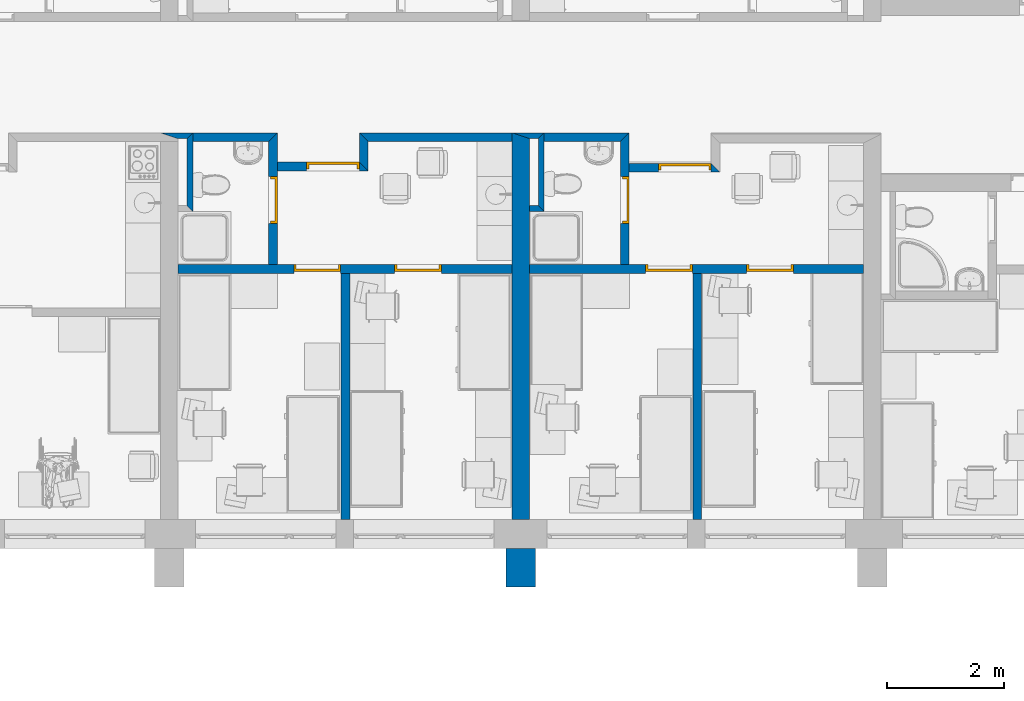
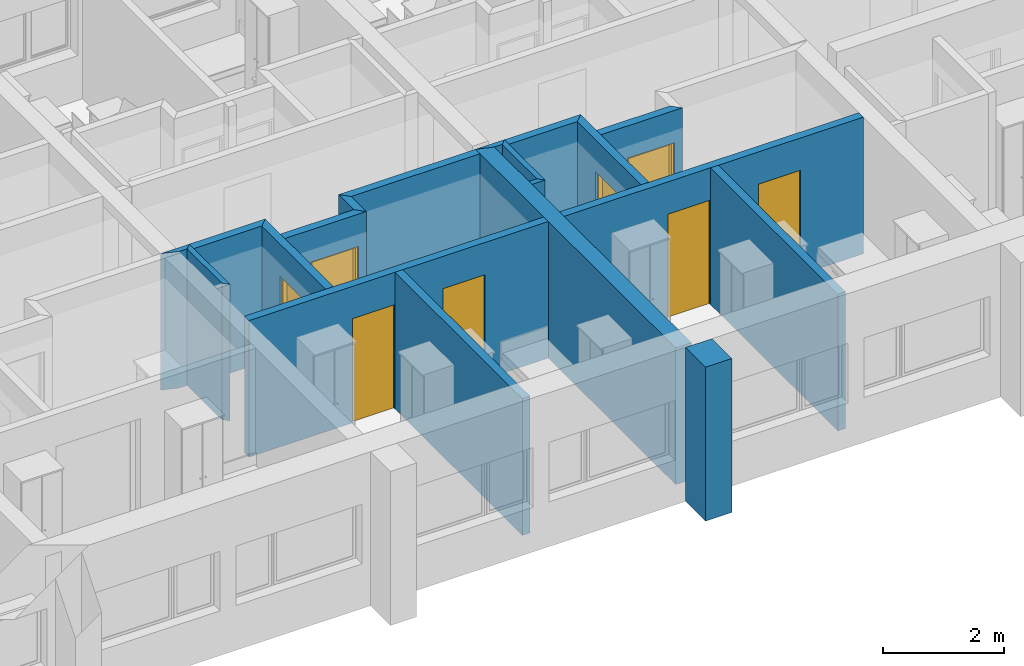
# One storey, part 15 of 172: 19 walls, 8 doors, 8 openings.
"""IFC2X3 building model written with IfcOpenShell, lengths in millimetres."""

import ifcopenshell
import ifcopenshell.guid

model = None  # the IFC model being written
_history = None  # IfcOwnerHistory: only IFC2X3 demands one
_inside = {}  # id of a spatial element -> (the spatial element, [elements in it])
_under = {}  # id of a project, library or spatial element -> (it, [spatial elements below it])
_declared = {}  # id of a project -> (the project, [libraries it declares])
_typed = {}  # id of a type object -> (the type object, [elements of that type])
_made_of = {}  # id of a material, layer set ... -> (it, [elements and type objects made of it])


def new_model(schema):
    """Start an empty IFC model of exactly this schema.

    Asked for "IFC4X3", IfcOpenShell would pick the latest addendum, in which some entities
    have other attributes; the version numbers below select the first issue.
    IFC2X3 requires an IfcOwnerHistory on every rooted entity: one is made here for all.
    """
    global model, _history
    if schema == "IFC4X3":
        model = ifcopenshell.file(schema_version=(4, 3, 0, 0))
    else:
        model = ifcopenshell.file(schema=schema)
    _inside.clear()
    _under.clear()
    _declared.clear()
    _typed.clear()
    _made_of.clear()
    _history = None
    if model.schema == "IFC2X3":
        org = make("IfcOrganization", Name="unknown")
        user = make(
            "IfcPersonAndOrganization",
            ThePerson=make("IfcPerson", FamilyName="unknown"),
            TheOrganization=org,
        )
        app = make(
            "IfcApplication",
            ApplicationDeveloper=org,
            Version="unknown",
            ApplicationFullName="unknown",
            ApplicationIdentifier="unknown",
        )
        _history = make(
            "IfcOwnerHistory",
            OwningUser=user,
            OwningApplication=app,
            ChangeAction="ADDED",
            CreationDate=0,
        )
    return model


def make(cls, **values):
    """One entity of the class cls with the attributes given. An attribute that is None is left unset."""
    return model.create_entity(
        cls, **{name: value for name, value in values.items() if value is not None}
    )


def entity(cls, *values):
    """Any entity or typed value of the class cls, its attributes in the order of the schema. None: left unset."""
    e = model.create_entity(cls)
    for i, value in enumerate(values):
        if value is not None:
            e[i] = value
    return e


def rooted(cls, **values):
    """An entity with a GlobalId (a new one), such as an element, a storey or a relation."""
    return make(cls, GlobalId=ifcopenshell.guid.new(), OwnerHistory=_history, **values)


def si_unit(unit_type, name, prefix=None):
    """IfcSIUnit, for example si_unit("LENGTHUNIT", "METRE", prefix="MILLI")."""
    return make("IfcSIUnit", UnitType=unit_type, Prefix=prefix, Name=name)


def converted_unit(unit_type, name, factor, base, dimensions=None, offset=None):
    """IfcConversionBasedUnit, such as the inch: factor (a typed value) times the base unit."""
    return make(
        "IfcConversionBasedUnit"
        if offset is None
        else "IfcConversionBasedUnitWithOffset",
        ConversionOffset=offset,
        Dimensions=None
        if dimensions is None
        else entity("IfcDimensionalExponents", *dimensions),
        UnitType=unit_type,
        Name=name,
        ConversionFactor=make(
            "IfcMeasureWithUnit", ValueComponent=factor, UnitComponent=base
        ),
    )


def money_unit(currency):
    """IfcMonetaryUnit."""
    return make("IfcMonetaryUnit", Currency=currency)


def assignment(units):
    """IfcUnitAssignment: the units of a project."""
    return None if units is None else make("IfcUnitAssignment", Units=units)


def point(xyz):
    """IfcCartesianPoint."""
    return None if xyz is None else make("IfcCartesianPoint", Coordinates=xyz)


def direction(xyz):
    """IfcDirection."""
    return None if xyz is None else make("IfcDirection", DirectionRatios=xyz)


def frame(location, z_axis=None, x_axis=None):
    """IfcAxis2Placement3D, a coordinate frame: its origin and axes. An axis left out is left unset."""
    return make(
        "IfcAxis2Placement3D",
        Location=point(location),
        Axis=direction(z_axis),
        RefDirection=direction(x_axis),
    )


def origin_with_axes():
    """The frame at (0, 0, 0) with the z axis (0, 0, 1) and the x axis (1, 0, 0) written out."""
    return frame((0.0, 0.0, 0.0), z_axis=(0.0, 0.0, 1.0), x_axis=(1.0, 0.0, 0.0))


def place(relative_to, where):
    """IfcLocalPlacement: puts the frame where relative to a parent placement (None: the world)."""
    return make(
        "IfcLocalPlacement", PlacementRelTo=relative_to, RelativePlacement=where
    )


def context(
    kind, dimensions, precision=None, world=None, true_north=None, identifier=None
):
    """IfcGeometricRepresentationContext, for example the 3D "Model" context."""
    return make(
        "IfcGeometricRepresentationContext",
        ContextIdentifier=identifier,
        ContextType=kind,
        CoordinateSpaceDimension=dimensions,
        Precision=precision,
        WorldCoordinateSystem=world,
        TrueNorth=true_north,
    )


def subcontext(parent, identifier, kind, view, scale=None):
    """IfcGeometricRepresentationSubContext, for example "Body" below "Model"."""
    return make(
        "IfcGeometricRepresentationSubContext",
        ContextIdentifier=identifier,
        ContextType=kind,
        ParentContext=parent,
        TargetScale=scale,
        TargetView=view,
    )


def project(units=None, contexts=None):
    """IfcProject with its units and contexts."""
    return rooted(
        "IfcProject",
        Name="project",
        RepresentationContexts=contexts,
        UnitsInContext=assignment(units),
    )


def spatial(cls, under=None, at=None, **own):
    """A site, building, storey or space (cls), placed at a placement, below another one or the project."""
    s = rooted(cls, ObjectPlacement=at, **own)
    if under is not None:
        _under.setdefault(under.id(), (under, []))[1].append(s)
    return s


def polyline(points):
    """IfcPolyline through the points."""
    return make("IfcPolyline", Points=[point(p) for p in points])


def outline(outer, holes=None, kind="AREA"):
    """IfcArbitraryClosedProfileDef: a profile drawn as a closed curve; with holes, ...WithVoids."""
    if holes is None:
        return make("IfcArbitraryClosedProfileDef", ProfileType=kind, OuterCurve=outer)
    return make(
        "IfcArbitraryProfileDefWithVoids",
        ProfileType=kind,
        OuterCurve=outer,
        InnerCurves=holes,
    )


def extrude(swept, where, along, depth):
    """IfcExtrudedAreaSolid: the profile swept, set in the frame where, extruded along a direction by depth."""
    return make(
        "IfcExtrudedAreaSolid",
        SweptArea=swept,
        Position=where,
        ExtrudedDirection=direction(along),
        Depth=depth,
    )


def faces_of(points, faces, orient=None, outer=None):
    """IfcFace entities. A face is a list of loops; a loop is a list of indices into points, from 0.

    orient and outer hold one flag for each loop. By default every Orientation is true, the
    first loop of a face is its IfcFaceOuterBound and the others are IfcFaceBound.
    """
    made = []
    for i, loops in enumerate(faces):
        bounds = []
        for j, loop in enumerate(loops):
            is_outer = j == 0 if outer is None else outer[i][j]
            bounds.append(
                make(
                    "IfcFaceOuterBound" if is_outer else "IfcFaceBound",
                    Bound=make("IfcPolyLoop", Polygon=[points[k] for k in loop]),
                    Orientation=True if orient is None else orient[i][j],
                )
            )
        made.append(make("IfcFace", Bounds=bounds))
    return made


def faceted_brep(points, faces, orient=None, outer=None, voids=None):
    """IfcFacetedBrep: a solid bounded by flat faces; with voids (closed shells), ...WithVoids."""
    shared = [point(p) for p in points]
    hull = make("IfcClosedShell", CfsFaces=faces_of(shared, faces, orient, outer))
    if voids is None:
        return make("IfcFacetedBrep", Outer=hull)
    return make(
        "IfcFacetedBrepWithVoids",
        Outer=hull,
        Voids=[
            make(cls, CfsFaces=faces_of(shared, fs, o, b)) for cls, fs, o, b in voids
        ],
    )


def shape(context_of_items, identifier, shape_type, items):
    """IfcShapeRepresentation: the items that make up one representation, for example the "Body"."""
    return make(
        "IfcShapeRepresentation",
        ContextOfItems=context_of_items,
        RepresentationIdentifier=identifier,
        RepresentationType=shape_type,
        Items=items,
    )


def source(mapping_origin, context_of_items, identifier, shape_type, items):
    """IfcRepresentationMap: a shape defined once, which mapped items show again and again."""
    return make(
        "IfcRepresentationMap",
        MappingOrigin=mapping_origin,
        MappedRepresentation=shape(context_of_items, identifier, shape_type, items),
    )


def transform(
    local_origin,
    x_axis=None,
    y_axis=None,
    z_axis=None,
    scale=None,
    scale2=None,
    scale3=None,
    uniform=True,
):
    """IfcCartesianTransformationOperator3D, or its non-uniform kind. x_axis, y_axis, z_axis: its Axis1, 2, 3."""
    if uniform:
        return make(
            "IfcCartesianTransformationOperator3D",
            Axis1=direction(x_axis),
            Axis2=direction(y_axis),
            LocalOrigin=point(local_origin),
            Scale=scale,
            Axis3=direction(z_axis),
        )
    return make(
        "IfcCartesianTransformationOperator3DnonUniform",
        Axis1=direction(x_axis),
        Axis2=direction(y_axis),
        LocalOrigin=point(local_origin),
        Scale=scale,
        Axis3=direction(z_axis),
        Scale2=scale2,
        Scale3=scale3,
    )


def mapped(mapping_source, mapping_target):
    """IfcMappedItem: shows the shape of a source again, moved by a transform."""
    return make(
        "IfcMappedItem", MappingSource=mapping_source, MappingTarget=mapping_target
    )


def material(Name=None, Category=None):
    """IfcMaterial."""
    return make("IfcMaterial", Name=Name, Category=Category)


def material_list(materials):
    """IfcMaterialList."""
    return make("IfcMaterialList", Materials=materials)


def layer(
    of_material, thickness, ventilated=None, Name=None, Category=None, Priority=None
):
    """IfcMaterialLayer: one layer of a wall or slab, of a material (None: an air gap)."""
    return make(
        "IfcMaterialLayer",
        Material=of_material,
        LayerThickness=thickness,
        IsVentilated=ventilated,
        Name=Name,
        Category=Category,
        Priority=Priority,
    )


def layer_set(layers, Name=None):
    """IfcMaterialLayerSet."""
    return make("IfcMaterialLayerSet", MaterialLayers=layers, LayerSetName=Name)


def layer_usage(for_layer_set, set_direction, sense, offset, extent=None):
    """IfcMaterialLayerSetUsage: how a layer set lies in its element."""
    return make(
        "IfcMaterialLayerSetUsage",
        ForLayerSet=for_layer_set,
        LayerSetDirection=set_direction,
        DirectionSense=sense,
        OffsetFromReferenceLine=offset,
        ReferenceExtent=extent,
    )


def made_of(thing, what):
    """Note that an element or type object is made of a material, layer set ...; save() writes the relation."""
    if what is not None:
        _made_of.setdefault(what.id(), (what, []))[1].append(thing)
    return thing


def type_object(cls, material=None, **own):
    """A type object (cls), such as IfcWallType, which elements share."""
    return made_of(rooted(cls, **own), material)


def element(
    cls,
    number,
    at=None,
    inside=None,
    cuts=None,
    type_object=None,
    material=None,
    context=None,
    identifier="Body",
    shape_type=None,
    held_by="IfcProductDefinitionShape",
    body=None,
    shapes=None,
    **own,
):
    """One element of the class cls, such as IfcWall. Its Tag is "e" and its number.

    at: its placement. inside: the storey or other place that contains it. cuts: it is an
    opening in that element (IfcRelVoidsElement). A single representation is given by context,
    identifier, shape_type and body (its items); several are given by shapes. held_by: the class
    of the entity that holds the representations. save() writes the other relations.
    """
    e = rooted(cls, Tag="e%d" % number, ObjectPlacement=at, **own)
    if body is not None:
        shapes = [shape(context, identifier, shape_type, body)]
    if shapes is not None:
        e.Representation = make(held_by, Representations=shapes)
    if inside is not None:
        _inside.setdefault(inside.id(), (inside, []))[1].append(e)
    if cuts is not None:
        rooted(
            "IfcRelVoidsElement", RelatingBuildingElement=cuts, RelatedOpeningElement=e
        )
    if type_object is not None:
        _typed.setdefault(type_object.id(), (type_object, []))[1].append(e)
    return made_of(e, material)


def fill(opening, filler):
    """IfcRelFillsElement: the door or window that sits in an opening."""
    return rooted(
        "IfcRelFillsElement",
        RelatingOpeningElement=opening,
        RelatedBuildingElement=filler,
    )


def aggregate(whole, parts):
    """IfcRelAggregates: a whole, such as a stair, and the parts it consists of."""
    return rooted("IfcRelAggregates", RelatingObject=whole, RelatedObjects=parts)


def save(model, path):
    """Write the relations noted so far, then the file.

    IfcRelAggregates (storeys below a building ...), IfcRelContainedInSpatialStructure (elements
    in a storey), IfcRelDefinesByType, IfcRelAssociatesMaterial and IfcRelDeclares: one each for
    every whole, place, type object, material and project.
    """
    for whole, parts in _under.values():
        aggregate(whole, parts)
    for where, things in _inside.values():
        rooted(
            "IfcRelContainedInSpatialStructure",
            RelatedElements=things,
            RelatingStructure=where,
        )
    for kind, things in _typed.values():
        rooted("IfcRelDefinesByType", RelatedObjects=things, RelatingType=kind)
    for what, things in _made_of.values():
        rooted("IfcRelAssociatesMaterial", RelatedObjects=things, RelatingMaterial=what)
    for by, libraries in _declared.values():
        rooted("IfcRelDeclares", RelatingContext=by, RelatedDefinitions=libraries)
    model.write(path)


model = new_model("IFC2X3")

# Units and contexts
model_context = context("Model", 3, precision=1e-05, world=origin_with_axes(), true_north=direction((0.0, 1.0)))
body_context = subcontext(model_context, "Body", "Model", "MODEL_VIEW")
ifc_project = project(units=[si_unit("LENGTHUNIT", "METRE", prefix="MILLI"), si_unit("AREAUNIT", "SQUARE_METRE"), si_unit("VOLUMEUNIT", "CUBIC_METRE"), converted_unit("PLANEANGLEUNIT", "DEGREE", entity("IfcPlaneAngleMeasure", 0.0174532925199), si_unit("PLANEANGLEUNIT", "RADIAN"), dimensions=[0, 0, 0, 0, 0, 0, 0]), si_unit("SOLIDANGLEUNIT", "STERADIAN"), money_unit("USD"), converted_unit("TIMEUNIT", "Year", entity("IfcTimeMeasure", 31556926.0), si_unit("TIMEUNIT", "SECOND"), dimensions=[0, 0, 0, 0, 0, 0, 0]), si_unit("MASSUNIT", "GRAM"), si_unit("THERMODYNAMICTEMPERATUREUNIT", "DEGREE_CELSIUS"), si_unit("LUMINOUSINTENSITYUNIT", "LUMEN")], contexts=[model_context])

# Site, building, storey
site_placement = place(None, origin_with_axes())
site = spatial("IfcSite", under=ifc_project, at=site_placement, Name="Site", CompositionType="ELEMENT")
building_placement = place(site_placement, origin_with_axes())
building = spatial("IfcBuilding", under=site, at=building_placement, Name="Building", CompositionType="ELEMENT")
storey_placement = place(building_placement, frame((0.0, 0.0, 3200.0), z_axis=(0.0, 0.0, 1.0), x_axis=(1.0, 0.0, 0.0)))
storey = spatial("IfcBuildingStorey", under=building, at=storey_placement, Name="3KORRUS", CompositionType="ELEMENT", Elevation=3200.0)

# Wall
ifc_material_1 = material(Name="Olemasolevad seinad tellis, uus viimistlus")
ifc_layer_1 = layer(ifc_material_1, 500.0, ventilated="UNKNOWN")
ifc_layer_set_1 = layer_set([ifc_layer_1], Name="Olemasolevad seinad tellis, uus viimistlus 500")
ifc_layer_usage_1 = layer_usage(ifc_layer_set_1, "AXIS2", "POSITIVE", -100.0)
wall_type_1 = type_object("IfcWallType", Name="Olemasolevad seinad tellis, uus viimistlus 500", PredefinedType="NOTDEFINED")
wall_1_placement = place(storey_placement, frame((6009.70329669, -20796.6419407, 0.0), z_axis=(0.0, 0.0, 1.0), x_axis=(0.0, 1.0, 0.0)))
element("IfcWallStandardCase", 1, at=wall_1_placement, inside=storey, type_object=wall_type_1, material=ifc_layer_usage_1, Name="VS1", ObjectType="VS1", context=body_context, shape_type="SweptSolid", body=[
    extrude(outline(polyline([(0.0, -100.0), (657.402041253, -100.0), (657.402041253, 400.0), (0.0, 400.0), (0.0, -100.0)])), origin_with_axes(), (0.0, 0.0, 1.0), 3100.0),
])

# Wall, openings, doors
ifc_material_2 = material(Name="UmbKipsplaat")
ifc_layer_2 = layer(ifc_material_2, 13.0, ventilated="UNKNOWN")
ifc_layer_3 = layer(ifc_material_2, 13.0, ventilated="UNKNOWN")
ifc_material_3 = material(Name="SOOJUSTUS MINERAALVILL")
ifc_layer_4 = layer(ifc_material_3, 98.0, ventilated="UNKNOWN")
ifc_layer_5 = layer(ifc_material_2, 13.0, ventilated="UNKNOWN")
ifc_layer_6 = layer(ifc_material_2, 13.0, ventilated="UNKNOWN")
ifc_layer_set_2 = layer_set([ifc_layer_2, ifc_layer_3, ifc_layer_4, ifc_layer_5, ifc_layer_6], Name="kipssein150")
ifc_layer_usage_2 = layer_usage(ifc_layer_set_2, "AXIS2", "POSITIVE", 0.0)
wall_type_2 = type_object("IfcWallType", Name="kipssein150 150", PredefinedType="NOTDEFINED")
wall_2_placement = place(storey_placement, frame((6009.70329669, -15439.2398994, 0.0), z_axis=(0.0, 0.0, 1.0), x_axis=(1.0, 0.0, 0.0)))
wall_2 = element("IfcWallStandardCase", 2, at=wall_2_placement, inside=storey, type_object=wall_type_2, material=ifc_layer_usage_2, Name="SS1", ObjectType="SS1", context=body_context, shape_type="SweptSolid", body=[
    extrude(outline(polyline([(0.0, 0.0), (5700.0, 0.0), (5700.0, 150.0), (0.0, 150.0), (0.0, 0.0)])), origin_with_axes(), (0.0, 0.0, 1.0), 2750.0),
])
opening_1_placement = place(wall_2_placement, frame((4106.28839536, 0.0, 0.0), z_axis=(0.0, 0.0, 1.0), x_axis=(1.0, 0.0, 0.0)))
opening_1 = element("IfcOpeningElement", 3, at=opening_1_placement, cuts=wall_2, Name="SU3-4", context=body_context, shape_type="SweptSolid", body=[
    extrude(outline(polyline([(-400.0, 0.0), (400.0, 0.0), (400.0, 2100.0), (-400.0, 2100.0), (-400.0, 0.0)])), frame((0.0, -150.0, 0.0), z_axis=(0.0, 1.0, 0.0), x_axis=(-1.0, 0.0, 0.0)), (0.0, 0.0, 1.0), 450.0),
])
opening_2_placement = place(wall_2_placement, frame((2381.28839536, 0.0, 0.0), z_axis=(0.0, 0.0, 1.0), x_axis=(1.0, 0.0, 0.0)))
opening_2 = element("IfcOpeningElement", 4, at=opening_2_placement, cuts=wall_2, Name="SU3-5", context=body_context, shape_type="SweptSolid", body=[
    extrude(outline(polyline([(-400.0, 0.0), (400.0, 0.0), (400.0, 2100.0), (-400.0, 2100.0), (-400.0, 0.0)])), frame((0.0, -150.0, 0.0), z_axis=(0.0, -1.0, 0.0), x_axis=(1.0, 0.0, 0.0)), (0.0, 0.0, -1.0), 450.0),
])
ifc_material_4 = material(Name="Background")
ifc_material_list = material_list([ifc_material_4])
door_style_1 = type_object("IfcDoorStyle", Name="Door 19", ConstructionType="NOTDEFINED", OperationType="SINGLE_SWING_RIGHT", ParameterTakesPrecedence=False, Sizeable=False)
shared_shape_1 = source(origin_with_axes(), body_context, "Body", "Brep", [
    faceted_brep([(-360.0, -75.0, 0.0), (-360.0, -75.0, 2060.0), (-360.0, -150.0, 2060.0), (-360.0, -150.0, 0.0), (-372.0, -75.0, 2060.0), (-372.0, -75.0, 0.0), (-372.0, -35.0, 2060.0), (-400.0, -35.0, 2060.0), (-400.0, -150.0, 2060.0), (-400.0, -150.0, 0.0), (-400.0, -35.0, 0.0), (-372.0, -35.0, 0.0)], [[[0, 1, 2, 3]], [[4, 1, 0, 5]], [[4, 6, 7, 8, 2, 1]], [[2, 8, 9, 3]], [[5, 0, 3, 9, 10, 11]], [[6, 4, 5, 11]], [[6, 11, 10, 7]], [[9, 8, 7, 10]]]),
    faceted_brep([(372.0, -75.0, 2060.0), (360.0, -75.0, 2060.0), (360.0, -150.0, 2060.0), (400.0, -150.0, 2060.0), (400.0, -35.0, 2060.0), (372.0, -35.0, 2060.0), (372.0, -75.0, 0.0), (360.0, -75.0, 0.0), (360.0, -150.0, 0.0), (400.0, -150.0, 0.0), (400.0, -35.0, 0.0), (372.0, -35.0, 0.0)], [[[0, 1, 2, 3, 4, 5]], [[1, 0, 6, 7]], [[1, 7, 8, 2]], [[2, 8, 9, 3]], [[3, 9, 10, 4]], [[11, 5, 4, 10]], [[0, 5, 11, 6]], [[6, 11, 10, 9, 8, 7]]]),
    faceted_brep([(-372.0, -35.0, 2072.0), (-372.0, -35.0, 2060.0), (-400.0, -35.0, 2060.0), (-400.0, -35.0, 2100.0), (400.0, -35.0, 2100.0), (400.0, -35.0, 2060.0), (372.0, -35.0, 2060.0), (372.0, -35.0, 2072.0), (-372.0, -75.0, 2072.0), (-372.0, -75.0, 2060.0), (-360.0, -75.0, 2060.0), (-360.0, -150.0, 2060.0), (-400.0, -150.0, 2060.0), (-400.0, -150.0, 2100.0), (400.0, -150.0, 2100.0), (400.0, -150.0, 2060.0), (372.0, -75.0, 2060.0), (360.0, -150.0, 2060.0), (360.0, -75.0, 2060.0), (372.0, -75.0, 2072.0)], [[[0, 1, 2, 3, 4, 5, 6, 7]], [[1, 0, 8, 9]], [[9, 10, 11, 12, 2, 1]], [[12, 13, 3, 2]], [[13, 14, 4, 3]], [[14, 15, 5, 4]], [[16, 6, 5, 15, 17, 18]], [[7, 6, 16, 19]], [[0, 7, 19, 8]], [[16, 18, 10, 9, 8, 19]], [[10, 18, 17, 11]], [[15, 14, 13, 12, 11, 17]]]),
    faceted_brep([(372.0, -35.0, 0.0), (372.0, -75.0, 0.0), (-372.0, -75.0, 0.0), (-372.0, -35.0, 0.0), (372.0, -35.0, 2072.0), (372.0, -75.0, 2072.0), (-372.0, -75.0, 2072.0), (-372.0, -35.0, 2072.0)], [[[0, 1, 2, 3]], [[4, 5, 1, 0]], [[1, 5, 6, 2]], [[3, 2, 6, 7]], [[0, 3, 7, 4]], [[7, 6, 5, 4]]]),
])
door_1_placement = place(opening_1_placement, frame((400.0, 0.0, 0.0), z_axis=(0.0, 0.0, 1.0), x_axis=(-1.0, 0.0, 0.0)))
door_1 = element("IfcDoor", 5, at=door_1_placement, inside=storey, type_object=door_style_1, material=ifc_material_list, Name="SU3-4", ObjectType="Toa uks", OverallHeight=2100.0, OverallWidth=800.0, context=body_context, shape_type="MappedRepresentation", body=[
    mapped(shared_shape_1, transform((400.0, 0.0, 0.0))),
])
fill(opening_1, door_1)
door_style_2 = type_object("IfcDoorStyle", Name="Door 19", ConstructionType="NOTDEFINED", OperationType="SINGLE_SWING_LEFT", ParameterTakesPrecedence=False, Sizeable=False)
shared_shape_2 = source(origin_with_axes(), body_context, "Body", "Brep", [
    faceted_brep([(360.0, -75.0, 0.0), (360.0, -150.0, 0.0), (360.0, -150.0, 2060.0), (360.0, -75.0, 2060.0), (372.0, -75.0, 0.0), (372.0, -35.0, 0.0), (400.0, -35.0, 0.0), (400.0, -150.0, 0.0), (400.0, -150.0, 2060.0), (372.0, -75.0, 2060.0), (400.0, -35.0, 2060.0), (372.0, -35.0, 2060.0)], [[[0, 1, 2, 3]], [[4, 5, 6, 7, 1, 0]], [[2, 1, 7, 8]], [[9, 3, 2, 8, 10, 11]], [[9, 4, 0, 3]], [[11, 5, 4, 9]], [[11, 10, 6, 5]], [[7, 6, 10, 8]]]),
    faceted_brep([(-372.0, -75.0, 2060.0), (-372.0, -35.0, 2060.0), (-400.0, -35.0, 2060.0), (-400.0, -150.0, 2060.0), (-360.0, -150.0, 2060.0), (-360.0, -75.0, 2060.0), (-372.0, -75.0, 0.0), (-372.0, -35.0, 0.0), (-400.0, -35.0, 0.0), (-400.0, -150.0, 0.0), (-360.0, -150.0, 0.0), (-360.0, -75.0, 0.0)], [[[0, 1, 2, 3, 4, 5]], [[0, 6, 7, 1]], [[7, 8, 2, 1]], [[3, 2, 8, 9]], [[4, 3, 9, 10]], [[5, 4, 10, 11]], [[5, 11, 6, 0]], [[6, 11, 10, 9, 8, 7]]]),
    faceted_brep([(372.0, -35.0, 2072.0), (-372.0, -35.0, 2072.0), (-372.0, -35.0, 2060.0), (-400.0, -35.0, 2060.0), (-400.0, -35.0, 2100.0), (400.0, -35.0, 2100.0), (400.0, -35.0, 2060.0), (372.0, -35.0, 2060.0), (372.0, -75.0, 2072.0), (-372.0, -75.0, 2072.0), (-372.0, -75.0, 2060.0), (-360.0, -75.0, 2060.0), (-360.0, -150.0, 2060.0), (-400.0, -150.0, 2060.0), (-400.0, -150.0, 2100.0), (400.0, -150.0, 2100.0), (400.0, -150.0, 2060.0), (372.0, -75.0, 2060.0), (360.0, -150.0, 2060.0), (360.0, -75.0, 2060.0)], [[[0, 1, 2, 3, 4, 5, 6, 7]], [[0, 8, 9, 1]], [[1, 9, 10, 2]], [[10, 11, 12, 13, 3, 2]], [[14, 4, 3, 13]], [[15, 5, 4, 14]], [[16, 6, 5, 15]], [[17, 7, 6, 16, 18, 19]], [[7, 17, 8, 0]], [[10, 9, 8, 17, 19, 11]], [[19, 18, 12, 11]], [[13, 12, 18, 16, 15, 14]]]),
    faceted_brep([(-372.0, -35.0, 0.0), (372.0, -35.0, 0.0), (372.0, -75.0, 0.0), (-372.0, -75.0, 0.0), (-372.0, -35.0, 2072.0), (372.0, -35.0, 2072.0), (372.0, -75.0, 2072.0), (-372.0, -75.0, 2072.0)], [[[0, 1, 2, 3]], [[0, 4, 5, 1]], [[1, 5, 6, 2]], [[3, 2, 6, 7]], [[4, 0, 3, 7]], [[5, 4, 7, 6]]]),
])
door_2_placement = place(opening_2_placement, frame((400.0, 0.0, 0.0), z_axis=(0.0, 0.0, 1.0), x_axis=(-1.0, 0.0, 0.0)))
door_2 = element("IfcDoor", 6, at=door_2_placement, inside=storey, type_object=door_style_2, material=ifc_material_list, Name="SU3-5", ObjectType="Toa uks", OverallHeight=2100.0, OverallWidth=800.0, context=body_context, shape_type="MappedRepresentation", body=[
    mapped(shared_shape_2, transform((400.0, 0.0, 0.0))),
])
fill(opening_2, door_2)

# Wall, opening, door
ifc_layer_usage_3 = layer_usage(ifc_layer_set_2, "AXIS2", "POSITIVE", -150.0)
wall_3_placement = place(storey_placement, frame((7709.89667774, -13563.4524083, 0.0), z_axis=(0.0, 0.0, 1.0), x_axis=(1.0, 0.0, 0.0)))
wall_3 = element("IfcWallStandardCase", 7, at=wall_3_placement, inside=storey, type_object=wall_type_2, material=ifc_layer_usage_3, Name="SS1", ObjectType="SS1", context=body_context, shape_type="SweptSolid", body=[
    extrude(outline(polyline([(0.0, -150.0), (1549.66067938, -150.0), (1399.66067938, 0.0), (0.0, 0.0), (0.0, -150.0)])), origin_with_axes(), (0.0, 0.0, 1.0), 2750.0),
])
opening_3_placement = place(wall_3_placement, frame((949.660679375, 0.0, 0.0), z_axis=(0.0, 0.0, 1.0), x_axis=(1.0, 0.0, 0.0)))
opening_3 = element("IfcOpeningElement", 8, at=opening_3_placement, cuts=wall_3, Name="SU2-5", context=body_context, shape_type="SweptSolid", body=[
    extrude(outline(polyline([(-450.0, -2100.0), (450.0, -2100.0), (450.0, 0.0), (-450.0, 0.0), (-450.0, -2100.0)])), frame((0.0, -150.0, 0.0), z_axis=(0.0, 1.0, 0.0), x_axis=(1.0, 0.0, 0.0)), (0.0, 0.0, 1.0), 450.0),
])
door_style_3 = type_object("IfcDoorStyle", Name="Door 19", ConstructionType="NOTDEFINED", OperationType="SINGLE_SWING_RIGHT", ParameterTakesPrecedence=False, Sizeable=False)
shared_shape_3 = source(origin_with_axes(), body_context, "Body", "Brep", [
    faceted_brep([(-410.0, -40.0, 0.0), (-410.0, -40.0, 2060.0), (-410.0, -115.0, 2060.0), (-410.0, -115.0, 0.0), (-422.0, -40.0, 2060.0), (-422.0, -40.0, 0.0), (-422.0, 0.0, 2060.0), (-450.0, 0.0, 2060.0), (-450.0, -115.0, 2060.0), (-450.0, -115.0, 0.0), (-450.0, 0.0, 0.0), (-422.0, 0.0, 0.0)], [[[0, 1, 2, 3]], [[4, 1, 0, 5]], [[4, 6, 7, 8, 2, 1]], [[2, 8, 9, 3]], [[5, 0, 3, 9, 10, 11]], [[6, 4, 5, 11]], [[6, 11, 10, 7]], [[9, 8, 7, 10]]]),
    faceted_brep([(422.0, -40.0, 2060.0), (410.0, -40.0, 2060.0), (410.0, -115.0, 2060.0), (450.0, -115.0, 2060.0), (450.0, 0.0, 2060.0), (422.0, 0.0, 2060.0), (422.0, -40.0, 0.0), (410.0, -40.0, 0.0), (410.0, -115.0, 0.0), (450.0, -115.0, 0.0), (450.0, 0.0, 0.0), (422.0, 0.0, 0.0)], [[[0, 1, 2, 3, 4, 5]], [[1, 0, 6, 7]], [[1, 7, 8, 2]], [[2, 8, 9, 3]], [[3, 9, 10, 4]], [[11, 5, 4, 10]], [[0, 5, 11, 6]], [[6, 11, 10, 9, 8, 7]]]),
    faceted_brep([(-422.0, 0.0, 2072.0), (-422.0, 0.0, 2060.0), (-450.0, 0.0, 2060.0), (-450.0, 0.0, 2100.0), (450.0, 0.0, 2100.0), (450.0, 0.0, 2060.0), (422.0, 0.0, 2060.0), (422.0, 0.0, 2072.0), (-422.0, -40.0, 2072.0), (-422.0, -40.0, 2060.0), (-410.0, -40.0, 2060.0), (-410.0, -115.0, 2060.0), (-450.0, -115.0, 2060.0), (-450.0, -115.0, 2100.0), (450.0, -115.0, 2100.0), (450.0, -115.0, 2060.0), (422.0, -40.0, 2060.0), (410.0, -115.0, 2060.0), (410.0, -40.0, 2060.0), (422.0, -40.0, 2072.0)], [[[0, 1, 2, 3, 4, 5, 6, 7]], [[1, 0, 8, 9]], [[9, 10, 11, 12, 2, 1]], [[12, 13, 3, 2]], [[13, 14, 4, 3]], [[14, 15, 5, 4]], [[16, 6, 5, 15, 17, 18]], [[7, 6, 16, 19]], [[0, 7, 19, 8]], [[16, 18, 10, 9, 8, 19]], [[10, 18, 17, 11]], [[15, 14, 13, 12, 11, 17]]]),
    faceted_brep([(422.0, 0.0, 0.0), (422.0, -40.0, 0.0), (-422.0, -40.0, 0.0), (-422.0, 0.0, 0.0), (422.0, 0.0, 2072.0), (422.0, -40.0, 2072.0), (-422.0, -40.0, 2072.0), (-422.0, 0.0, 2072.0)], [[[0, 1, 2, 3]], [[4, 5, 1, 0]], [[1, 5, 6, 2]], [[3, 2, 6, 7]], [[0, 3, 7, 4]], [[7, 6, 5, 4]]]),
])
door_3_placement = place(opening_3_placement, frame((-450.0, 0.0, 0.0), z_axis=(0.0, 0.0, 1.0), x_axis=(1.0, 0.0, 0.0)))
door_3 = element("IfcDoor", 9, at=door_3_placement, inside=storey, type_object=door_style_3, material=ifc_material_list, Name="SU2-5", ObjectType="Korteri välisuks", OverallHeight=2100.0, OverallWidth=900.0, context=body_context, shape_type="MappedRepresentation", body=[
    mapped(shared_shape_3, transform((450.0, 0.0, 0.0))),
])
fill(opening_3, door_3)

ifc_layer_usage_4 = layer_usage(ifc_layer_set_2, "AXIS2", "POSITIVE", 0.0)
wall_4_placement = place(storey_placement, frame((7709.89667774, -15439.2398994, 0.0), z_axis=(0.0, 0.0, 1.0), x_axis=(0.0, 1.0, 0.0)))
wall_4 = element("IfcWallStandardCase", 10, at=wall_4_placement, inside=storey, type_object=wall_type_2, material=ifc_layer_usage_4, Name="SS1", ObjectType="SS1", context=body_context, shape_type="SweptSolid", body=[
    extrude(outline(polyline([(150.0, 0.0), (2399.8693268, 0.0), (2249.8693268, 150.0), (150.0, 150.0), (150.0, 0.0)])), origin_with_axes(), (0.0, 0.0, 1.0), 2750.0),
])
opening_4_placement = place(wall_4_placement, frame((1249.78749843, 0.0, 0.0), z_axis=(0.0, 0.0, 1.0), x_axis=(1.0, 0.0, 0.0)))
opening_4 = element("IfcOpeningElement", 11, at=opening_4_placement, cuts=wall_4, Name="SU3-3", context=body_context, shape_type="SweptSolid", body=[
    extrude(outline(polyline([(-400.0, -2100.0), (400.0, -2100.0), (400.0, 0.0), (-400.0, 0.0), (-400.0, -2100.0)])), frame((0.0, 150.0, 0.0), z_axis=(0.0, 1.0, 0.0), x_axis=(1.0, 0.0, 0.0)), (0.0, 0.0, -1.0), 450.0),
])
door_style_4 = type_object("IfcDoorStyle", Name="Door 19", ConstructionType="NOTDEFINED", OperationType="SINGLE_SWING_LEFT", ParameterTakesPrecedence=False, Sizeable=False)
shared_shape_4 = source(origin_with_axes(), body_context, "Body", "Brep", [
    faceted_brep([(360.0, -40.0, 0.0), (360.0, -115.0, 0.0), (360.0, -115.0, 2060.0), (360.0, -40.0, 2060.0), (372.0, -40.0, 0.0), (372.0, 0.0, 0.0), (400.0, 0.0, 0.0), (400.0, -115.0, 0.0), (400.0, -115.0, 2060.0), (372.0, -40.0, 2060.0), (400.0, 0.0, 2060.0), (372.0, 0.0, 2060.0)], [[[0, 1, 2, 3]], [[4, 5, 6, 7, 1, 0]], [[2, 1, 7, 8]], [[9, 3, 2, 8, 10, 11]], [[9, 4, 0, 3]], [[11, 5, 4, 9]], [[11, 10, 6, 5]], [[7, 6, 10, 8]]]),
    faceted_brep([(-372.0, -40.0, 2060.0), (-372.0, 0.0, 2060.0), (-400.0, 0.0, 2060.0), (-400.0, -115.0, 2060.0), (-360.0, -115.0, 2060.0), (-360.0, -40.0, 2060.0), (-372.0, -40.0, 0.0), (-372.0, 0.0, 0.0), (-400.0, 0.0, 0.0), (-400.0, -115.0, 0.0), (-360.0, -115.0, 0.0), (-360.0, -40.0, 0.0)], [[[0, 1, 2, 3, 4, 5]], [[0, 6, 7, 1]], [[7, 8, 2, 1]], [[3, 2, 8, 9]], [[4, 3, 9, 10]], [[5, 4, 10, 11]], [[5, 11, 6, 0]], [[6, 11, 10, 9, 8, 7]]]),
    faceted_brep([(372.0, 0.0, 2072.0), (-372.0, 0.0, 2072.0), (-372.0, 0.0, 2060.0), (-400.0, 0.0, 2060.0), (-400.0, 0.0, 2100.0), (400.0, 0.0, 2100.0), (400.0, 0.0, 2060.0), (372.0, 0.0, 2060.0), (372.0, -40.0, 2072.0), (-372.0, -40.0, 2072.0), (-372.0, -40.0, 2060.0), (-360.0, -40.0, 2060.0), (-360.0, -115.0, 2060.0), (-400.0, -115.0, 2060.0), (-400.0, -115.0, 2100.0), (400.0, -115.0, 2100.0), (400.0, -115.0, 2060.0), (372.0, -40.0, 2060.0), (360.0, -115.0, 2060.0), (360.0, -40.0, 2060.0)], [[[0, 1, 2, 3, 4, 5, 6, 7]], [[0, 8, 9, 1]], [[1, 9, 10, 2]], [[10, 11, 12, 13, 3, 2]], [[14, 4, 3, 13]], [[15, 5, 4, 14]], [[16, 6, 5, 15]], [[17, 7, 6, 16, 18, 19]], [[7, 17, 8, 0]], [[10, 9, 8, 17, 19, 11]], [[19, 18, 12, 11]], [[13, 12, 18, 16, 15, 14]]]),
    faceted_brep([(-372.0, 0.0, 0.0), (372.0, 0.0, 0.0), (372.0, -40.0, 0.0), (-372.0, -40.0, 0.0), (-372.0, 0.0, 2072.0), (372.0, 0.0, 2072.0), (372.0, -40.0, 2072.0), (-372.0, -40.0, 2072.0)], [[[0, 1, 2, 3]], [[0, 4, 5, 1]], [[1, 5, 6, 2]], [[3, 2, 6, 7]], [[4, 0, 3, 7]], [[5, 4, 7, 6]]]),
])
door_4_placement = place(opening_4_placement, frame((400.0, 0.0, 0.0), z_axis=(0.0, 0.0, 1.0), x_axis=(-1.0, 0.0, 0.0)))
door_4 = element("IfcDoor", 12, at=door_4_placement, inside=storey, type_object=door_style_4, material=ifc_material_list, Name="SU3-3", ObjectType="WC-uks", OverallHeight=2100.0, OverallWidth=800.0, context=body_context, shape_type="MappedRepresentation", body=[
    mapped(shared_shape_4, transform((400.0, 0.0, 0.0))),
])
fill(opening_4, door_4)

# Walls
ifc_layer_usage_5 = layer_usage(ifc_layer_set_2, "AXIS2", "POSITIVE", 0.0)
wall_5_placement = place(storey_placement, frame((7709.89667774, -13039.3705726, 0.0), z_axis=(0.0, 0.0, 1.0), x_axis=(-1.0, 0.0, 0.0)))
element("IfcWallStandardCase", 13, at=wall_5_placement, inside=storey, type_object=wall_type_2, material=ifc_layer_usage_5, Name="SS1", ObjectType="SS1", context=body_context, shape_type="SweptSolid", body=[
    extrude(outline(polyline([(0.0, 0.0), (1449.9049857, 0.0), (1449.9049857, 150.0), (150.0, 150.0), (0.0, 0.0)])), origin_with_axes(), (0.0, 0.0, 1.0), 2750.0),
])
ifc_layer_usage_6 = layer_usage(ifc_layer_set_2, "AXIS2", "POSITIVE", -150.0)
wall_6_placement = place(storey_placement, frame((8795.99169205, -19639.2398994, 0.0), z_axis=(0.0, 0.0, 1.0), x_axis=(0.0, 1.0, 0.0)))
element("IfcWallStandardCase", 14, at=wall_6_placement, inside=storey, type_object=wall_type_2, material=ifc_layer_usage_6, Name="SS1", ObjectType="SS1", context=body_context, shape_type="SweptSolid", body=[
    extrude(outline(polyline([(0.0, -150.0), (4200.0, -150.0), (4200.0, 0.0), (0.0, 0.0), (0.0, -150.0)])), origin_with_axes(), (0.0, 0.0, 1.0), 2750.0),
])
ifc_layer_usage_7 = layer_usage(ifc_layer_set_2, "AXIS2", "POSITIVE", -150.0)
wall_7_placement = place(storey_placement, frame((259.414901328, -13039.5012458, 0.0), z_axis=(0.0, 0.0, 1.0), x_axis=(1.0, 0.0, 0.0)))
element("IfcWallStandardCase", 15, at=wall_7_placement, inside=storey, type_object=wall_type_2, material=ifc_layer_usage_7, Name="SS1", ObjectType="SS1", context=body_context, shape_type="SweptSolid", body=[
    extrude(outline(polyline([(0.0, -150.0), (1294.19338105, -150.0), (1444.19338105, 0.0), (0.0, 0.0), (0.0, -150.0)])), origin_with_axes(), (0.0, 0.0, 1.0), 2750.0),
])

# Wall, opening, door
ifc_layer_usage_8 = layer_usage(ifc_layer_set_2, "AXIS2", "POSITIVE", -150.0)
wall_8_placement = place(storey_placement, frame((1703.60828238, -13539.5830815, 0.0), z_axis=(0.0, 0.0, 1.0), x_axis=(1.0, 0.0, 0.0)))
wall_8 = element("IfcWallStandardCase", 16, at=wall_8_placement, inside=storey, type_object=wall_type_2, material=ifc_layer_usage_8, Name="SS1", ObjectType="SS1", context=body_context, shape_type="SweptSolid", body=[
    extrude(outline(polyline([(0.0, -150.0), (1549.66067938, -150.0), (1399.66067938, 0.0), (0.0, 0.0), (0.0, -150.0)])), origin_with_axes(), (0.0, 0.0, 1.0), 2750.0),
])
opening_5_placement = place(wall_8_placement, frame((949.660679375, 0.0, 0.0), z_axis=(0.0, 0.0, 1.0), x_axis=(1.0, 0.0, 0.0)))
opening_5 = element("IfcOpeningElement", 17, at=opening_5_placement, cuts=wall_8, Name="SU2-5", context=body_context, shape_type="SweptSolid", body=[
    extrude(outline(polyline([(-450.0, -2100.0), (450.0, -2100.0), (450.0, 0.0), (-450.0, 0.0), (-450.0, -2100.0)])), frame((0.0, -150.0, 0.0), z_axis=(0.0, 1.0, 0.0), x_axis=(1.0, 0.0, 0.0)), (0.0, 0.0, 1.0), 450.0),
])
door_5_placement = place(opening_5_placement, frame((-450.0, 0.0, 0.0), z_axis=(0.0, 0.0, 1.0), x_axis=(1.0, 0.0, 0.0)))
door_5 = element("IfcDoor", 18, at=door_5_placement, inside=storey, type_object=door_style_3, material=ifc_material_list, Name="SU2-5", ObjectType="Korteri välisuks", OverallHeight=2100.0, OverallWidth=900.0, context=body_context, shape_type="MappedRepresentation", body=[
    mapped(shared_shape_3, transform((450.0, 0.0, 0.0))),
])
fill(opening_5, door_5)

# Wall
ifc_layer_usage_9 = layer_usage(ifc_layer_set_2, "AXIS2", "POSITIVE", -150.0)
wall_9_placement = place(storey_placement, frame((3253.26896176, -13039.3705726, 0.0), z_axis=(0.0, 0.0, 1.0), x_axis=(0.0, -1.0, 0.0)))
element("IfcWallStandardCase", 19, at=wall_9_placement, inside=storey, type_object=wall_type_2, material=ifc_layer_usage_9, Name="SS1", ObjectType="SS1", context=body_context, shape_type="SweptSolid", body=[
    extrude(outline(polyline([(0.0, -150.0), (500.2125089, -150.0), (650.2125089, 0.0), (150.0, 0.0), (0.0, -150.0)])), origin_with_axes(), (0.0, 0.0, 1.0), 2750.0),
])

# Wall, opening, door
ifc_layer_usage_10 = layer_usage(ifc_layer_set_2, "AXIS2", "POSITIVE", 0.0)
wall_10_placement = place(storey_placement, frame((1703.60828238, -15289.2398994, 0.0), z_axis=(0.0, 0.0, 1.0), x_axis=(0.0, 1.0, 0.0)))
wall_10 = element("IfcWallStandardCase", 20, at=wall_10_placement, inside=storey, type_object=wall_type_2, material=ifc_layer_usage_10, Name="SS1", ObjectType="SS1", context=body_context, shape_type="SweptSolid", body=[
    extrude(outline(polyline([(0.0, 0.0), (2249.7386536, 0.0), (2099.7386536, 150.0), (0.0, 150.0), (0.0, 0.0)])), origin_with_axes(), (0.0, 0.0, 1.0), 2750.0),
])
opening_6_placement = place(wall_10_placement, frame((1099.65681793, 0.0, 0.0), z_axis=(0.0, 0.0, 1.0), x_axis=(1.0, 0.0, 0.0)))
opening_6 = element("IfcOpeningElement", 21, at=opening_6_placement, cuts=wall_10, Name="SU3-3", context=body_context, shape_type="SweptSolid", body=[
    extrude(outline(polyline([(-400.0, -2100.0), (400.0, -2100.0), (400.0, 0.0), (-400.0, 0.0), (-400.0, -2100.0)])), frame((0.0, 150.0, 0.0), z_axis=(0.0, 1.0, 0.0), x_axis=(1.0, 0.0, 0.0)), (0.0, 0.0, -1.0), 450.0),
])
door_6_placement = place(opening_6_placement, frame((400.0, 0.0, 0.0), z_axis=(0.0, 0.0, 1.0), x_axis=(-1.0, 0.0, 0.0)))
door_6 = element("IfcDoor", 22, at=door_6_placement, inside=storey, type_object=door_style_4, material=ifc_material_list, Name="SU3-3", ObjectType="WC-uks", OverallHeight=2100.0, OverallWidth=800.0, context=body_context, shape_type="MappedRepresentation", body=[
    mapped(shared_shape_4, transform((400.0, 0.0, 0.0))),
])
fill(opening_6, door_6)

# Wall
ifc_layer_usage_11 = layer_usage(ifc_layer_set_2, "AXIS2", "POSITIVE", -150.0)
wall_11_placement = place(storey_placement, frame((3253.26896176, -13039.3705726, 0.0), z_axis=(0.0, 0.0, 1.0), x_axis=(1.0, 0.0, 0.0)))
element("IfcWallStandardCase", 23, at=wall_11_placement, inside=storey, type_object=wall_type_2, material=ifc_layer_usage_11, Name="SS1", ObjectType="SS1", context=body_context, shape_type="SweptSolid", body=[
    extrude(outline(polyline([(0.0, -150.0), (2456.43433493, -150.0), (2456.43433493, 0.0), (-150.0, 0.0), (0.0, -150.0)])), origin_with_axes(), (0.0, 0.0, 1.0), 2750.0),
])

# Wall, openings, doors
ifc_layer_usage_12 = layer_usage(ifc_layer_set_2, "AXIS2", "POSITIVE", 0.0)
wall_12_placement = place(storey_placement, frame((9.70329668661, -15439.2398994, 0.0), z_axis=(0.0, 0.0, 1.0), x_axis=(1.0, 0.0, 0.0)))
wall_12 = element("IfcWallStandardCase", 24, at=wall_12_placement, inside=storey, type_object=wall_type_2, material=ifc_layer_usage_12, Name="SS1", ObjectType="SS1", context=body_context, shape_type="SweptSolid", body=[
    extrude(outline(polyline([(0.0, 0.0), (5700.0, 0.0), (5700.0, 150.0), (0.0, 150.0), (0.0, 0.0)])), origin_with_axes(), (0.0, 0.0, 1.0), 2750.0),
])
opening_7_placement = place(wall_12_placement, frame((4095.0, 0.0, 0.0), z_axis=(0.0, 0.0, 1.0), x_axis=(1.0, 0.0, 0.0)))
opening_7 = element("IfcOpeningElement", 25, at=opening_7_placement, cuts=wall_12, Name="SU3-4", context=body_context, shape_type="SweptSolid", body=[
    extrude(outline(polyline([(-400.0, 0.0), (400.0, 0.0), (400.0, 2100.0), (-400.0, 2100.0), (-400.0, 0.0)])), frame((0.0, -150.0, 0.0), z_axis=(0.0, 1.0, 0.0), x_axis=(-1.0, 0.0, 0.0)), (0.0, 0.0, 1.0), 450.0),
])
opening_8_placement = place(wall_12_placement, frame((2375.0, 0.0, 0.0), z_axis=(0.0, 0.0, 1.0), x_axis=(1.0, 0.0, 0.0)))
opening_8 = element("IfcOpeningElement", 26, at=opening_8_placement, cuts=wall_12, Name="SU3-5", context=body_context, shape_type="SweptSolid", body=[
    extrude(outline(polyline([(-400.0, 0.0), (400.0, 0.0), (400.0, 2100.0), (-400.0, 2100.0), (-400.0, 0.0)])), frame((0.0, -150.0, 0.0), z_axis=(0.0, -1.0, 0.0), x_axis=(1.0, 0.0, 0.0)), (0.0, 0.0, -1.0), 450.0),
])
door_7_placement = place(opening_7_placement, frame((400.0, 0.0, 0.0), z_axis=(0.0, 0.0, 1.0), x_axis=(-1.0, 0.0, 0.0)))
door_7 = element("IfcDoor", 27, at=door_7_placement, inside=storey, type_object=door_style_1, material=ifc_material_list, Name="SU3-4", ObjectType="Toa uks", OverallHeight=2100.0, OverallWidth=800.0, context=body_context, shape_type="MappedRepresentation", body=[
    mapped(shared_shape_1, transform((400.0, 0.0, 0.0))),
])
fill(opening_7, door_7)
door_8_placement = place(opening_8_placement, frame((400.0, 0.0, 0.0), z_axis=(0.0, 0.0, 1.0), x_axis=(-1.0, 0.0, 0.0)))
door_8 = element("IfcDoor", 28, at=door_8_placement, inside=storey, type_object=door_style_2, material=ifc_material_list, Name="SU3-5", ObjectType="Toa uks", OverallHeight=2100.0, OverallWidth=800.0, context=body_context, shape_type="MappedRepresentation", body=[
    mapped(shared_shape_2, transform((400.0, 0.0, 0.0))),
])
fill(opening_8, door_8)

# Walls
ifc_layer_usage_13 = layer_usage(ifc_layer_set_2, "AXIS2", "POSITIVE", -150.0)
wall_13_placement = place(storey_placement, frame((2789.70329669, -19639.2398994, 0.0), z_axis=(0.0, 0.0, 1.0), x_axis=(0.0, 1.0, 0.0)))
element("IfcWallStandardCase", 29, at=wall_13_placement, inside=storey, type_object=wall_type_2, material=ifc_layer_usage_13, Name="SS1", ObjectType="SS1", context=body_context, shape_type="SweptSolid", body=[
    extrude(outline(polyline([(0.0, -150.0), (4200.0, -150.0), (4200.0, 0.0), (0.0, 0.0), (0.0, -150.0)])), origin_with_axes(), (0.0, 0.0, 1.0), 2750.0),
])
ifc_material_5 = material(Name="Olemasolevad seinad tellis, uus viimistlus")
ifc_layer_7 = layer(ifc_material_5, 300.0, ventilated="UNKNOWN")
ifc_layer_set_3 = layer_set([ifc_layer_7], Name="Olemasolevad seinad tellis, uus viimistlus  300")
ifc_layer_usage_14 = layer_usage(ifc_layer_set_3, "AXIS2", "POSITIVE", 0.0)
wall_type_3 = type_object("IfcWallType", Name="Olemasolevad seinad tellis, uus viimistlus  300", PredefinedType="NOTDEFINED")
wall_14_placement = place(storey_placement, frame((6009.70329669, -19639.2398994, 0.0), z_axis=(0.0, 0.0, 1.0), x_axis=(0.0, 1.0, 0.0)))
element("IfcWallStandardCase", 30, at=wall_14_placement, inside=storey, type_object=wall_type_3, material=ifc_layer_usage_14, Name="KS1", ObjectType="KS1", context=body_context, shape_type="SweptSolid", body=[
    extrude(outline(polyline([(0.0, 0.0), (6499.8693268, 0.0), (6599.8693268, 300.0), (0.0, 300.0), (0.0, 0.0)])), origin_with_axes(), (0.0, 0.0, 1.0), 2750.0),
])
ifc_material_6 = material(Name="krohv")
ifc_layer_8 = layer(ifc_material_6, 2.0, ventilated="UNKNOWN")
ifc_layer_9 = layer(ifc_material_6, 10.0, ventilated="UNKNOWN")
ifc_material_7 = material(Name="Kergplokk")
ifc_layer_10 = layer(ifc_material_7, 76.0, ventilated="UNKNOWN")
ifc_layer_11 = layer(ifc_material_6, 10.0, ventilated="UNKNOWN")
ifc_layer_12 = layer(ifc_material_6, 2.0, ventilated="UNKNOWN")
ifc_layer_set_4 = layer_set([ifc_layer_8, ifc_layer_9, ifc_layer_10, ifc_layer_11, ifc_layer_12], Name="Kergplokk Bauroc 100")
ifc_layer_usage_15 = layer_usage(ifc_layer_set_4, "AXIS2", "POSITIVE", 0.0)
wall_type_4 = type_object("IfcWallType", Name="Kergplokk Bauroc 100 100", PredefinedType="NOTDEFINED")
wall_15_placement = place(storey_placement, frame((6009.70329669, -14380.4716262, 0.0), z_axis=(0.0, 0.0, 1.0), x_axis=(1.0, 0.0, 0.0)))
element("IfcWallStandardCase", 31, at=wall_15_placement, inside=storey, type_object=wall_type_4, material=ifc_layer_usage_15, Name="SS2", ObjectType="SAHTISEIN", context=body_context, shape_type="SweptSolid", body=[
    extrude(outline(polyline([(0.0, 0.0), (250.28839536, 0.0), (150.28839536, 100.0), (0.0, 100.0), (0.0, 0.0)])), origin_with_axes(), (0.0, 0.0, 1.0), 2750.0),
])
ifc_layer_usage_16 = layer_usage(ifc_layer_set_4, "AXIS2", "POSITIVE", 0.0)
wall_16_placement = place(storey_placement, frame((6159.99169205, -13039.3705726, 0.0), z_axis=(0.0, 0.0, 1.0), x_axis=(-1.0, 0.0, 0.0)))
element("IfcWallStandardCase", 32, at=wall_16_placement, inside=storey, type_object=wall_type_4, material=ifc_layer_usage_16, Name="SS2", ObjectType="SAHTISEIN", context=body_context, shape_type="SweptSolid", body=[
    extrude(outline(polyline([(-100.0, 0.0), (450.28839536, 0.0), (150.28839536, 100.0), (0.0, 100.0), (-100.0, 0.0)])), origin_with_axes(), (0.0, 0.0, 1.0), 2750.0),
])
ifc_layer_usage_17 = layer_usage(ifc_layer_set_4, "AXIS2", "POSITIVE", 0.0)
wall_17_placement = place(storey_placement, frame((159.414901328, -13041.4529117, 0.0), z_axis=(0.0, 0.0, 1.0), x_axis=(-1.0, 0.0, 0.0)))
element("IfcWallStandardCase", 33, at=wall_17_placement, inside=storey, type_object=wall_type_4, material=ifc_layer_usage_17, Name="SS2", ObjectType="SAHTISEIN", context=body_context, shape_type="SweptSolid", body=[
    extrude(outline(polyline([(-100.0, 0.0), (449.711604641, 0.0), (149.711604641, 100.0), (0.0, 100.0), (-100.0, 0.0)])), origin_with_axes(), (0.0, 0.0, 1.0), 2750.0),
])
ifc_layer_usage_18 = layer_usage(ifc_layer_set_4, "AXIS2", "POSITIVE", 0.0)
wall_18_placement = place(storey_placement, frame((6159.99169205, -13039.3705726, 0.0), z_axis=(0.0, 0.0, 1.0), x_axis=(0.0, -1.0, 0.0)))
element("IfcWallStandardCase", 34, at=wall_18_placement, inside=storey, type_object=wall_type_4, material=ifc_layer_usage_18, Name="SS2", ObjectType="SAHTISEIN", context=body_context, shape_type="SweptSolid", body=[
    extrude(outline(polyline([(100.0, 0.0), (1241.1010536, 0.0), (1341.1010536, 100.0), (0.0, 100.0), (100.0, 0.0)])), origin_with_axes(), (0.0, 0.0, 1.0), 2750.0),
])
ifc_layer_usage_19 = layer_usage(ifc_layer_set_4, "AXIS2", "POSITIVE", 0.0)
wall_19_placement = place(storey_placement, frame((159.414901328, -13041.4529117, 0.0), z_axis=(0.0, 0.0, 1.0), x_axis=(0.0, -1.0, 0.0)))
element("IfcWallStandardCase", 35, at=wall_19_placement, inside=storey, type_object=wall_type_4, material=ifc_layer_usage_19, Name="SS2", ObjectType="SAHTISEIN", context=body_context, shape_type="SweptSolid", body=[
    extrude(outline(polyline([(100.0, 0.0), (1239.0187145, 0.0), (1339.0187145, 100.0), (0.0, 100.0), (100.0, 0.0)])), origin_with_axes(), (0.0, 0.0, 1.0), 2750.0),
])

save(model, "model.ifc")
